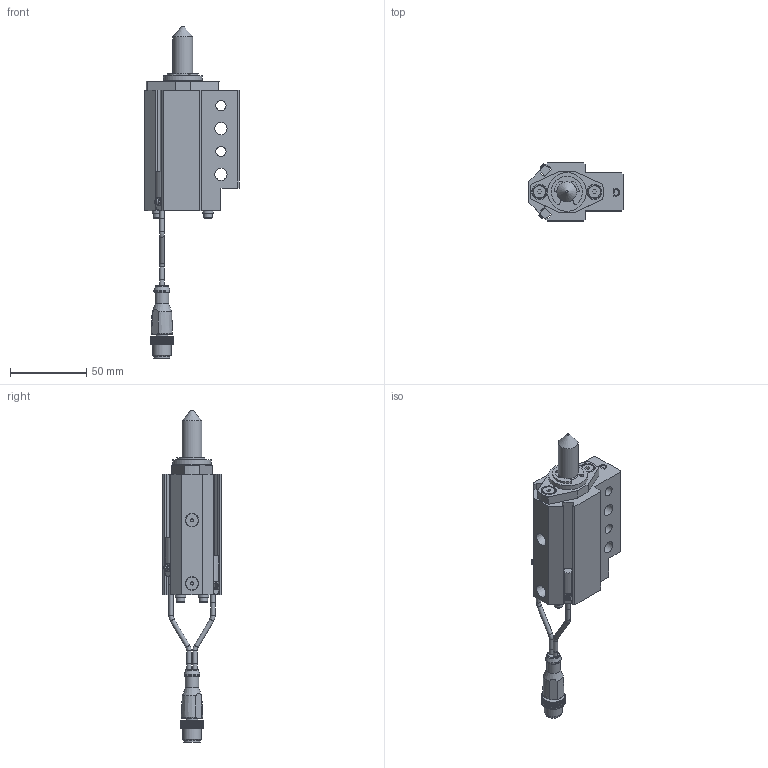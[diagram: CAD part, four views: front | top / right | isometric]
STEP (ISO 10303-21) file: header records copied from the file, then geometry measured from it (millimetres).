
FILE_DESCRIPTION(/* description */ ('NAAMS FLOATING MICRO PIN'),/* implementation_level */ '2;1');
FILE_NAME(/* name */ 'C:\Vault Workspace\CAD\Welker\Shot Pin\NMP\NMP130022ADNL3.stp',/* time_stamp */ '2021-01-27T10:57:28-05:00',/* author */ ('WELKER'),/* organization */ (''),/* preprocessor_version */ 'ST-DEVELOPER v18.1',/* originating_system */ 'Autodesk Inventor 2020',/* authorisation */ '');
FILE_SCHEMA (('AUTOMOTIVE_DESIGN { 1 0 10303 214 3 1 1 }'));
Length unit declared in the file: millimetre
Products named in the file (16): NMPL01; NMP L3 SWITCH; L3 Connector; L3 Sensor 1; L3 Sensor 2; L3 Sensor cable; L3 Sensor cable 2; M3X0.5-8 SHCS; NL3; NMPE06; NMPE03; NMPE05-DIA-LENGTH; 985432A218; NMPE01D-PORT; RMPE02; M5X5 SHOULDER
Assembly tree (22 placements, depth 3):
  NMPL01
    NMP L3 SWITCH
      L3 Connector
      L3 Sensor 1
      L3 Sensor 2
      L3 Sensor cable
      L3 Sensor cable 2
    M3X0.5-8 SHCS  x4
    NL3  x4
    NMPE06
    NMPE03
    NMPE05-DIA-LENGTH
    985432A218
    NMPE01D-PORT
    RMPE02
    M5X5 SHOULDER  x2
Bounding box: 62 x 38.1 x 217.71 mm (x, y, z)
Volume: 114095.7 mm3; surface area: 45589 mm2
Topology: 21 solids, 21 shells, 745 faces, 2017 edges, 1348 vertices
Faces by surface type: plane 547, cylinder 143, cone 31, torus 11, bspline 10, sphere 3
Full cylindrical faces by diameter (mm): 2 x2, 2.459 x4, 2.9 x10, 3 x5, 3.242 x2, 3.4 x4, 4 x2, 5 x6, 5.5 x4, 6.647 x2, 7 x4, 8 x2, 8.3 x2, 9 x3, 10 x3, 10.4 x1, 10.5 x1, 12 x1, 13 x3, 16 x2, 19.05 x3, 21 x1, 22.5 x1, 23.672 x1, 24 x1, 25.4 x1, 25.5 x1, 26.5 x1, 28.677 x1, 29.21 x1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
Entity records: 22760 total; most frequent: CARTESIAN_POINT 4217, ORIENTED_EDGE 3732, DIRECTION 3686, EDGE_CURVE 1866, LINE 1374, VECTOR 1374, VERTEX_POINT 1253, AXIS2_PLACEMENT_3D 1156
